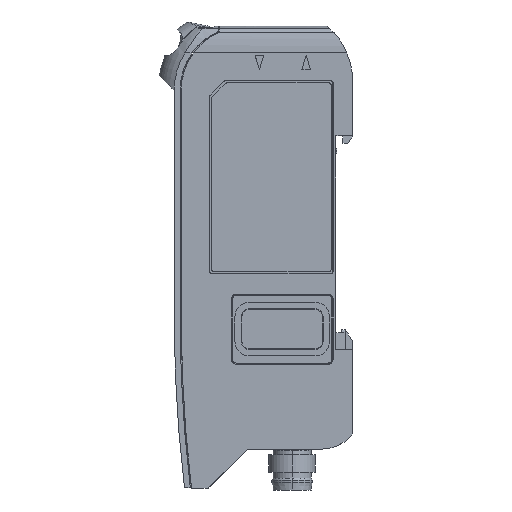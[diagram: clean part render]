
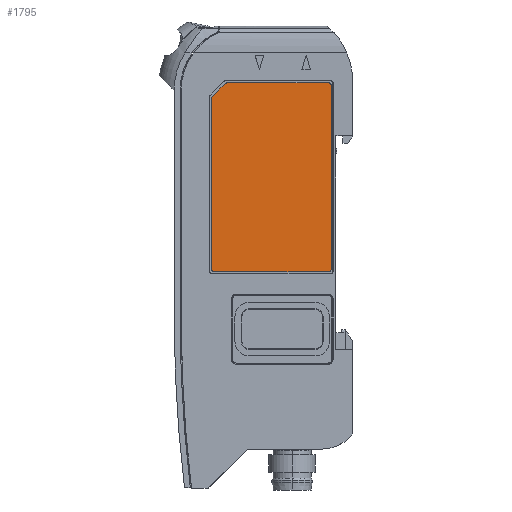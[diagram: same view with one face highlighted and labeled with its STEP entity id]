
A CAD part, left-side view. The second image highlights one B-rep face of the part: STEP entity #1795.
In plain terms, the highlighted planar face has unit normal (-1, 0, 0).
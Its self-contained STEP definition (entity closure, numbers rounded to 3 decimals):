
#75 = CARTESIAN_POINT ( 'NONE',  ( -10.425, 4.203, -42.097 ) ) ;
#1124 = VERTEX_POINT ( 'NONE', #18711 ) ;
#1227 = AXIS2_PLACEMENT_3D ( 'NONE', #16585, #2948, #9032 ) ;
#1339 = DIRECTION ( 'NONE',  ( 1., 0., 0. ) ) ;
#1669 = ORIENTED_EDGE ( 'NONE', *, *, #13942, .T. ) ;
#1695 = EDGE_LOOP ( 'NONE', ( #3481, #4133, #13164, #13220, #10839, #10390, #1669, #7085, #9643, #14018 ) ) ;
#1795 = ADVANCED_FACE ( 'NONE', ( #1972 ), #8044, .T. ) ;
#1972 = FACE_OUTER_BOUND ( 'NONE', #1695, .T. ) ;
#2536 = AXIS2_PLACEMENT_3D ( 'NONE', #16447, #1339, #8599 ) ;
#2716 = VERTEX_POINT ( 'NONE', #75 ) ;
#2948 = DIRECTION ( 'NONE',  ( 1., 0., 0. ) ) ;
#3280 = DIRECTION ( 'NONE',  ( -1., 0., 0. ) ) ;
#3402 = AXIS2_PLACEMENT_3D ( 'NONE', #16805, #3280, #9350 ) ;
#3465 = EDGE_CURVE ( 'NONE', #1124, #13404, #16803, .T. ) ;
#3481 = ORIENTED_EDGE ( 'NONE', *, *, #12606, .T. ) ;
#3524 = AXIS2_PLACEMENT_3D ( 'NONE', #5308, #14163, #3830 ) ;
#3687 = CIRCLE ( 'NONE', #13861, 0.5 ) ;
#3830 = DIRECTION ( 'NONE',  ( 0., 0., -1. ) ) ;
#4133 = ORIENTED_EDGE ( 'NONE', *, *, #5987, .F. ) ;
#4138 = CIRCLE ( 'NONE', #2536, 0.5 ) ;
#4640 = EDGE_CURVE ( 'NONE', #13915, #9446, #9450, .T. ) ;
#4806 = LINE ( 'NONE', #9364, #9316 ) ;
#4933 = DIRECTION ( 'NONE',  ( 0., 0., 1. ) ) ;
#4964 = CARTESIAN_POINT ( 'NONE',  ( -10.425, 23.703, -42.097 ) ) ;
#5072 = VECTOR ( 'NONE', #8057, 1000. ) ;
#5308 = CARTESIAN_POINT ( 'NONE',  ( -10.425, 23.703, -12.404 ) ) ;
#5584 = EDGE_CURVE ( 'NONE', #9067, #15408, #4138, .T. ) ;
#5954 = EDGE_CURVE ( 'NONE', #19299, #2716, #11464, .T. ) ;
#5955 = CARTESIAN_POINT ( 'NONE',  ( -10.425, 21.496, -9.697 ) ) ;
#5987 = EDGE_CURVE ( 'NONE', #13915, #10620, #16860, .T. ) ;
#6325 = CIRCLE ( 'NONE', #9816, 0.5 ) ;
#7085 = ORIENTED_EDGE ( 'NONE', *, *, #3465, .F. ) ;
#7540 = LINE ( 'NONE', #13608, #11702 ) ;
#7966 = DIRECTION ( 'NONE',  ( 0., 1., 0. ) ) ;
#8044 = PLANE ( 'NONE',  #3402 ) ;
#8057 = DIRECTION ( 'NONE',  ( 0., 0., -1. ) ) ;
#8098 = DIRECTION ( 'NONE',  ( 0., -1., 0. ) ) ;
#8480 = EDGE_CURVE ( 'NONE', #19299, #9446, #3687, .T. ) ;
#8599 = DIRECTION ( 'NONE',  ( 0., 0., -1. ) ) ;
#9017 = CARTESIAN_POINT ( 'NONE',  ( -10.425, 3.703, -41.597 ) ) ;
#9032 = DIRECTION ( 'NONE',  ( 0., 0., -1. ) ) ;
#9067 = VERTEX_POINT ( 'NONE', #16005 ) ;
#9078 = DIRECTION ( 'NONE',  ( 1., 0., 0. ) ) ;
#9312 = CARTESIAN_POINT ( 'NONE',  ( -10.425, 24.203, -12.404 ) ) ;
#9316 = VECTOR ( 'NONE', #7966, 1000. ) ;
#9350 = DIRECTION ( 'NONE',  ( 0., 0., 1. ) ) ;
#9364 = CARTESIAN_POINT ( 'NONE',  ( -10.425, 4.203, -9.697 ) ) ;
#9370 = DIRECTION ( 'NONE',  ( 0., 0., -1. ) ) ;
#9446 = VERTEX_POINT ( 'NONE', #19118 ) ;
#9450 = LINE ( 'NONE', #16073, #5072 ) ;
#9643 = ORIENTED_EDGE ( 'NONE', *, *, #19550, .T. ) ;
#9816 = AXIS2_PLACEMENT_3D ( 'NONE', #11223, #17308, #9370 ) ;
#10390 = ORIENTED_EDGE ( 'NONE', *, *, #11037, .F. ) ;
#10615 = DIRECTION ( 'NONE',  ( 0., 0.707, -0.707 ) ) ;
#10620 = VERTEX_POINT ( 'NONE', #12238 ) ;
#10839 = ORIENTED_EDGE ( 'NONE', *, *, #5954, .T. ) ;
#11037 = EDGE_CURVE ( 'NONE', #18433, #2716, #6325, .T. ) ;
#11223 = CARTESIAN_POINT ( 'NONE',  ( -10.425, 4.203, -41.597 ) ) ;
#11464 = LINE ( 'NONE', #15841, #17172 ) ;
#11702 = VECTOR ( 'NONE', #10615, 1000. ) ;
#12238 = CARTESIAN_POINT ( 'NONE',  ( -10.425, 24.057, -12.05 ) ) ;
#12606 = EDGE_CURVE ( 'NONE', #9067, #10620, #7540, .T. ) ;
#13164 = ORIENTED_EDGE ( 'NONE', *, *, #4640, .T. ) ;
#13220 = ORIENTED_EDGE ( 'NONE', *, *, #8480, .F. ) ;
#13331 = VECTOR ( 'NONE', #4933, 1000. ) ;
#13404 = VERTEX_POINT ( 'NONE', #15803 ) ;
#13608 = CARTESIAN_POINT ( 'NONE',  ( -10.425, 24.203, -12.197 ) ) ;
#13861 = AXIS2_PLACEMENT_3D ( 'NONE', #16323, #9078, #17001 ) ;
#13915 = VERTEX_POINT ( 'NONE', #9312 ) ;
#13942 = EDGE_CURVE ( 'NONE', #18433, #13404, #14159, .T. ) ;
#14018 = ORIENTED_EDGE ( 'NONE', *, *, #5584, .F. ) ;
#14159 = LINE ( 'NONE', #18608, #13331 ) ;
#14163 = DIRECTION ( 'NONE',  ( 1., 0., 0. ) ) ;
#15408 = VERTEX_POINT ( 'NONE', #5955 ) ;
#15803 = CARTESIAN_POINT ( 'NONE',  ( -10.425, 3.703, -10.197 ) ) ;
#15841 = CARTESIAN_POINT ( 'NONE',  ( -10.425, 4.203, -42.097 ) ) ;
#16005 = CARTESIAN_POINT ( 'NONE',  ( -10.425, 21.85, -9.843 ) ) ;
#16073 = CARTESIAN_POINT ( 'NONE',  ( -10.425, 24.203, -41.597 ) ) ;
#16323 = CARTESIAN_POINT ( 'NONE',  ( -10.425, 23.703, -41.597 ) ) ;
#16447 = CARTESIAN_POINT ( 'NONE',  ( -10.425, 21.496, -10.197 ) ) ;
#16585 = CARTESIAN_POINT ( 'NONE',  ( -10.425, 4.203, -10.197 ) ) ;
#16803 = CIRCLE ( 'NONE', #1227, 0.5 ) ;
#16805 = CARTESIAN_POINT ( 'NONE',  ( -10.425, 23.703, -41.597 ) ) ;
#16860 = CIRCLE ( 'NONE', #3524, 0.5 ) ;
#17001 = DIRECTION ( 'NONE',  ( 0., 0., -1. ) ) ;
#17172 = VECTOR ( 'NONE', #8098, 1000. ) ;
#17308 = DIRECTION ( 'NONE',  ( 1., 0., 0. ) ) ;
#18433 = VERTEX_POINT ( 'NONE', #9017 ) ;
#18608 = CARTESIAN_POINT ( 'NONE',  ( -10.425, 3.703, -41.597 ) ) ;
#18711 = CARTESIAN_POINT ( 'NONE',  ( -10.425, 4.203, -9.697 ) ) ;
#19118 = CARTESIAN_POINT ( 'NONE',  ( -10.425, 24.203, -41.597 ) ) ;
#19299 = VERTEX_POINT ( 'NONE', #4964 ) ;
#19550 = EDGE_CURVE ( 'NONE', #1124, #15408, #4806, .T. ) ;
